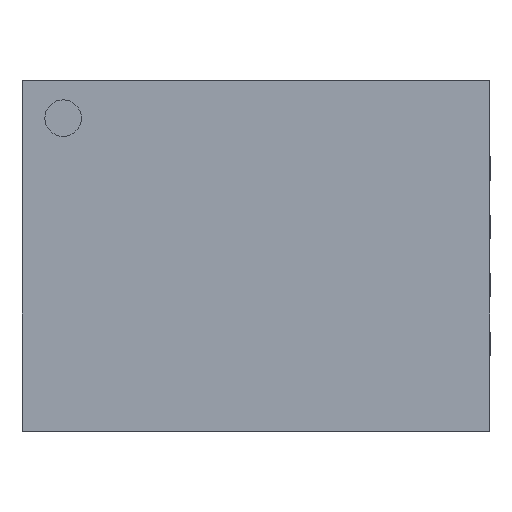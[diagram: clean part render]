
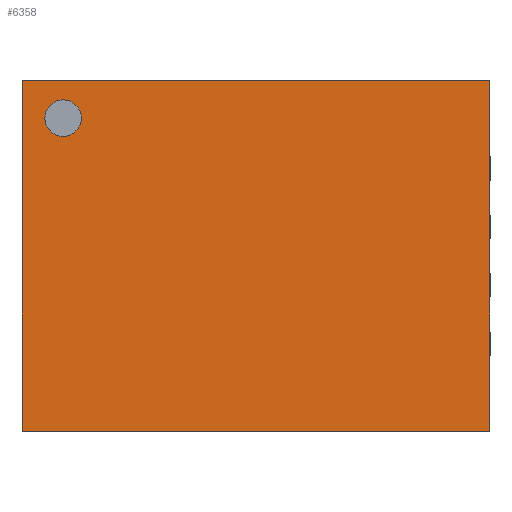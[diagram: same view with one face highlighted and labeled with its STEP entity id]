
A CAD part, top view. The second image highlights one B-rep face of the part: STEP entity #6358.
In plain terms, the highlighted planar face has unit normal (0, 0, 1).
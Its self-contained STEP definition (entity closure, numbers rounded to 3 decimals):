
#141=CIRCLE('',#6698,0.156);
#1156=ORIENTED_EDGE('',*,*,#1982,.T.);
#1157=ORIENTED_EDGE('',*,*,#1503,.T.);
#1158=ORIENTED_EDGE('',*,*,#1861,.T.);
#1159=ORIENTED_EDGE('',*,*,#1427,.T.);
#1160=ORIENTED_EDGE('',*,*,#1983,.T.);
#1427=EDGE_CURVE('',#2053,#2052,#2476,.T.);
#1503=EDGE_CURVE('',#2105,#2104,#2552,.T.);
#1861=EDGE_CURVE('',#2104,#2053,#2848,.T.);
#1982=EDGE_CURVE('',#2424,#2424,#141,.T.);
#1983=EDGE_CURVE('',#2052,#2105,#2951,.T.);
#2052=VERTEX_POINT('',#8002);
#2053=VERTEX_POINT('',#8004);
#2104=VERTEX_POINT('',#8161);
#2105=VERTEX_POINT('',#8163);
#2424=VERTEX_POINT('',#9152);
#2476=LINE('',#8003,#3023);
#2552=LINE('',#8162,#3099);
#2848=LINE('',#8906,#3395);
#2951=LINE('',#9153,#3498);
#3023=VECTOR('',#6766,1000.);
#3099=VECTOR('',#6904,1000.);
#3395=VECTOR('',#7590,1000.);
#3498=VECTOR('',#7847,1000.);
#3787=EDGE_LOOP('',(#1156));
#3788=EDGE_LOOP('',(#1157,#1158,#1159,#1160));
#4084=FACE_BOUND('',#3787,.T.);
#4085=FACE_BOUND('',#3788,.T.);
#4325=PLANE('',#6697);
#6358=ADVANCED_FACE('',(#4084,#4085),#4325,.T.);
#6697=AXIS2_PLACEMENT_3D('',#9150,#7843,#7844);
#6698=AXIS2_PLACEMENT_3D('',#9151,#7845,#7846);
#6766=DIRECTION('',(-1.,0.,0.));
#6904=DIRECTION('',(1.,0.,0.));
#7590=DIRECTION('',(0.,1.,0.));
#7843=DIRECTION('',(0.,0.,1.));
#7844=DIRECTION('',(1.,0.,0.));
#7845=DIRECTION('',(0.,0.,-1.));
#7846=DIRECTION('',(1.,0.,0.));
#7847=DIRECTION('',(0.,-1.,0.));
#8002=CARTESIAN_POINT('',(-2.,1.5,0.85));
#8003=CARTESIAN_POINT('',(2.,1.5,0.85));
#8004=CARTESIAN_POINT('',(2.,1.5,0.85));
#8161=CARTESIAN_POINT('',(2.,-1.5,0.85));
#8162=CARTESIAN_POINT('',(-2.,-1.5,0.85));
#8163=CARTESIAN_POINT('',(-2.,-1.5,0.85));
#8906=CARTESIAN_POINT('',(2.,-1.5,0.85));
#9150=CARTESIAN_POINT('',(0.,0.,0.85));
#9151=CARTESIAN_POINT('',(-1.649,1.178,0.85));
#9152=CARTESIAN_POINT('',(-1.493,1.178,0.85));
#9153=CARTESIAN_POINT('',(-2.,1.5,0.85));
